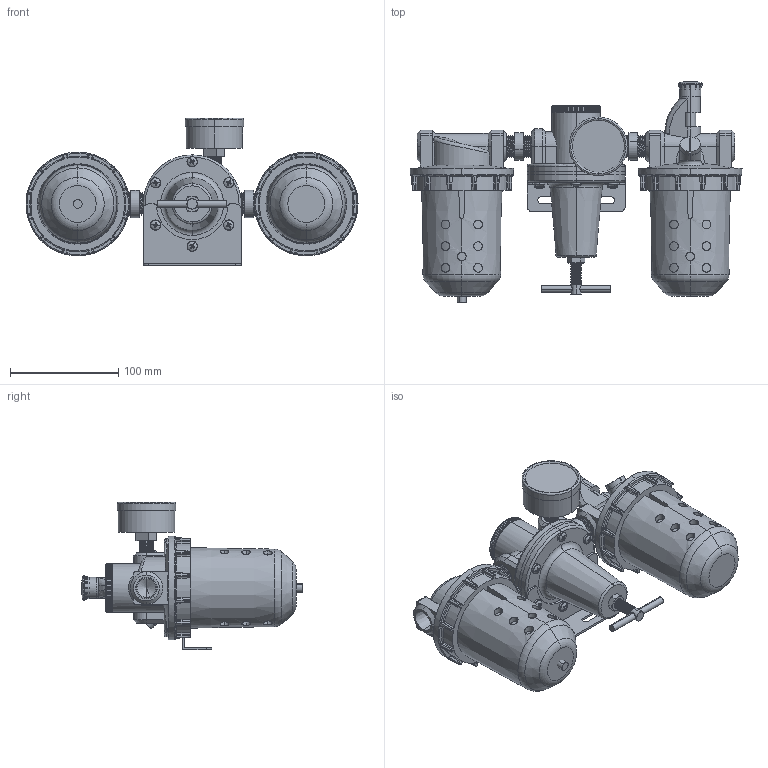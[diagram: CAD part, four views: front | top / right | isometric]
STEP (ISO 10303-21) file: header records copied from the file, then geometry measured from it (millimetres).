
FILE_DESCRIPTION (( 'STEP AP203' ), '1' );
FILE_NAME ('C628-04#YB#.STEP', '2016-01-14T17:33:42', ( '' ), ( '' ), 'SwSTEP 2.0', 'SolidWorks 2014', '' );
FILE_SCHEMA (( 'CONFIG_CONTROL_DESIGN' ));
Length unit declared in the file: millimetre
Products named in the file (24): R119-02-5; L606-W-06-4; L606-W-06-3; 50-P-AD=1-4PT-1; R119-04-3; L606-04; R119-04-2; R119-02-7; F602-04-上; F602-04#YB#; L606-W-04-1; ISO 7045 - M5 x 12; L606-W-06-5; 1-2-圓; 50-P-AD=1-4PT-2; 50-P-AD=1-4PT.SLDPRT; R119-04-4; KW18A57; R119-04-1; C628-04#YB#; R119-04; F602-04-下; R119-02-6
Assembly tree (30 placements, depth 4):
  C628-04#YB#
    F602-04#YB#
      L606-W-06-5
      F602-04-上
      F602-04-下
    R119-04
      R119-04-1
      R119-04-2
      R119-04-3
      R119-04-4
      R119-02-5
      R119-02-7
      R119-02-6
      ISO 7045 - M5 x 12  x6
      50-P-AD=1-4PT.SLDPRT
        50-P-AD=1-4PT-1
        50-P-AD=1-4PT-2
      KW18A57
    L606-04
      L606-W-06-4
      L606-W-06-3  x2
      L606-W-04-1
      L606-04
    1-2-圓  x2
Bounding box: 306.25 x 204 x 136 mm (x, y, z)
Volume: 1604914.1 mm3; surface area: 230408.3 mm2
Topology: 26 solids, 26 shells, 1695 faces, 4154 edges, 2493 vertices
Faces by surface type: plane 541, cylinder 410, cone 362, bspline 216, torus 94, sphere 72
Entity records: 64549 total; most frequent: CARTESIAN_POINT 30537, ORIENTED_EDGE 7044, DIRECTION 5959, EDGE_CURVE 3522, AXIS2_PLACEMENT_3D 2446, VERTEX_POINT 2142, EDGE_LOOP 1546, FACE_OUTER_BOUND 1469
